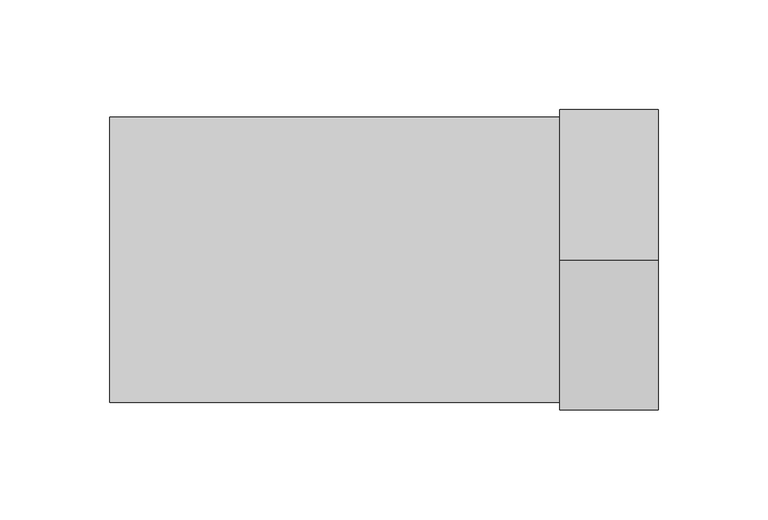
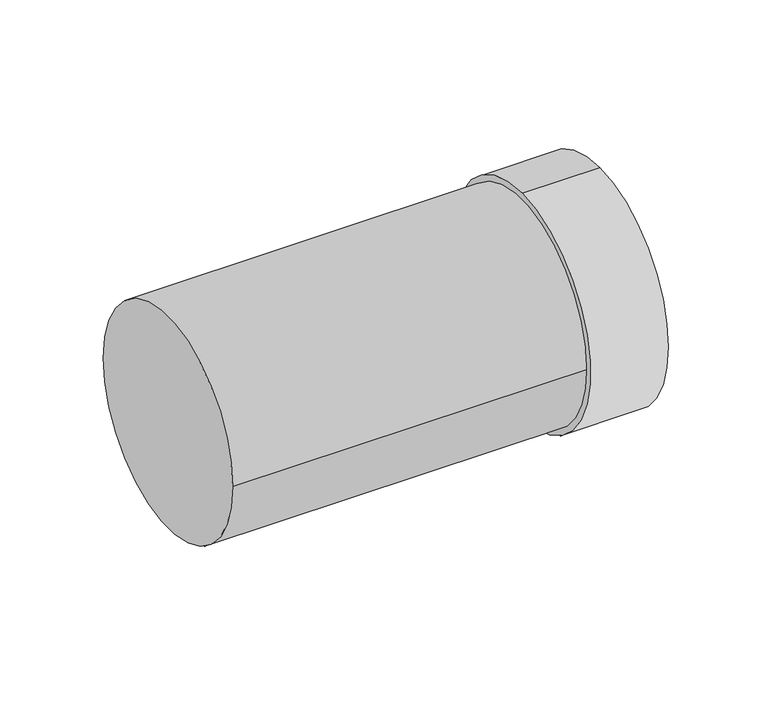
"""IFC4 building model written with IfcOpenShell, lengths in millimetres: duct fitting geometry, RSFen_DUF_UN_Twinline Extension_M&G : ø130-150-200."""

from ifc_helpers import new_model, si_unit, point, frame, origin, origin_2d, place, context, project, spatial, polyline, circle_curve, trimmed, segment, composite_curve, outline, extrude, source, transform, mapped, element, save
from ifc_brep_helpers import plane_surface, cylinder_surface, revolved_surface, advanced_brep


def duct_fitting_590bbebe(model_context):
    return source(origin(), model_context, "Body", "SolidModel", [
        advanced_brep(
        [(250.0, 0.0, -68.5), (250.0, 0.0, 68.5), (250.0, 0.0, 65.5), (250.0, 0.0, -65.5), (205.0, 0.0, -68.5), (205.0, 0.0, 68.5), (210.0, 0.0, -65.5), (210.0, 0.0, 65.5)],
        [
            (0, 1, circle_curve(frame((250.0, 0.0, 0.0), z_axis=(1.0, 0.0, 0.0), x_axis=(0.0, 0.0, 1.0)), 68.5)),
            (1, 0, circle_curve(frame((250.0, 0.0, 0.0), z_axis=(1.0, 0.0, 0.0), x_axis=(0.0, 0.0, 1.0)), 68.5)),
            (2, 3, circle_curve(frame((250.0, 0.0, 0.0), z_axis=(-1.0, 0.0, 0.0), x_axis=(0.0, 0.0, 1.0)), 65.5)),
            (3, 2, circle_curve(frame((250.0, 0.0, 0.0), z_axis=(-1.0, 0.0, 0.0), x_axis=(0.0, 0.0, 1.0)), 65.5)),
            (4, 5, circle_curve(frame((205.0, 0.0, 0.0), z_axis=(-1.0, 0.0, 0.0), x_axis=(0.0, 0.0, 1.0)), 68.5)),
            (5, 4, circle_curve(frame((205.0, 0.0, 0.0), z_axis=(-1.0, 0.0, 0.0), x_axis=(0.0, 0.0, 1.0)), 68.5)),
            (0, 4),
            (5, 1),
            (6, 7, circle_curve(frame((210.0, 0.0, 0.0), z_axis=(1.0, 0.0, 0.0), x_axis=(0.0, 0.0, 1.0)), 65.5)),
            (7, 6, circle_curve(frame((210.0, 0.0, 0.0), z_axis=(1.0, 0.0, 0.0), x_axis=(0.0, 0.0, 1.0)), 65.5)),
            (6, 3),
            (2, 7),
        ],
        [
            plane_surface(frame((250.0, 0.0, 68.5), z_axis=(1.0, 0.0, 0.0), x_axis=(0.0, -1.0, 0.0))),
            plane_surface(frame((205.0, 0.0, 68.5), z_axis=(-1.0, 0.0, 0.0), x_axis=(0.0, 1.0, 0.0))),
            cylinder_surface(frame((205.0, 0.0, 0.0), z_axis=(1.0, 0.0, 0.0), x_axis=(0.0, 0.0, 1.0)), 68.5),
            plane_surface(frame((210.0, 0.0, 65.5), z_axis=(1.0, 0.0, 0.0), x_axis=(0.0, 1.0, 0.0))),
            revolved_surface(polyline([(250.0, 0.0, 65.5), (210.0, 0.0, 65.5)]), (210.0, 0.0, 0.0), (1.0, 0.0, 0.0)),
        ],
        [
            (0, [[1, 2], [3, 4]]),
            (1, [[5, 6]]),
            (2, [[-1, 7, -6, 8]]),
            (2, [[-2, -8, -5, -7]]),
            (3, [[9, 10]]),
            (4, [[-9, 11, -3, 12]]),
            (4, [[-10, -12, -4, -11]]),
        ],
    ),
        extrude(outline(composite_curve([segment(trimmed(circle_curve(origin_2d(), 65.0), [point((65.0, 0.0))], [point((-65.0, 0.0))], False, "CARTESIAN"), True, "CONTINUOUS"), segment(trimmed(circle_curve(origin_2d(), 65.0), [point((-65.0, 0.0))], [point((65.0, 0.0))], False, "CARTESIAN"), True, "CONTINUOUS")], self_intersect=False)), frame((-2.39e-05, 0.0, 0.0), z_axis=(1.0, 0.0, 0.0), x_axis=(0.0, 1.0, 0.0)), (0.0, 0.0, 1.0), 210.0),
    ])


if __name__ == "__main__":
    model = new_model("IFC4")
    model_context = context("Model", 3, world=origin())
    ifc_project = project(units=[si_unit("LENGTHUNIT", "METRE", prefix="MILLI")], contexts=[model_context])
    site = spatial("IfcSite", under=ifc_project)
    building = spatial("IfcBuilding", under=site)
    placement = place(None, origin())
    duct_fitting_shape = duct_fitting_590bbebe(model_context)
    element("IfcDuctFitting", 1, ObjectType="RSFen_DUF_UN_Twinline Extension_M&G : ø130-150-200", at=placement, inside=building, context=model_context, shape_type="MappedRepresentation", body=[
        mapped(duct_fitting_shape, transform((0.0, 0.0, 0.0), x_axis=(1.0, 0.0, 0.0), y_axis=(0.0, 1.0, 0.0), z_axis=(0.0, 0.0, 1.0))),
    ])
    save(model, "model.ifc")
